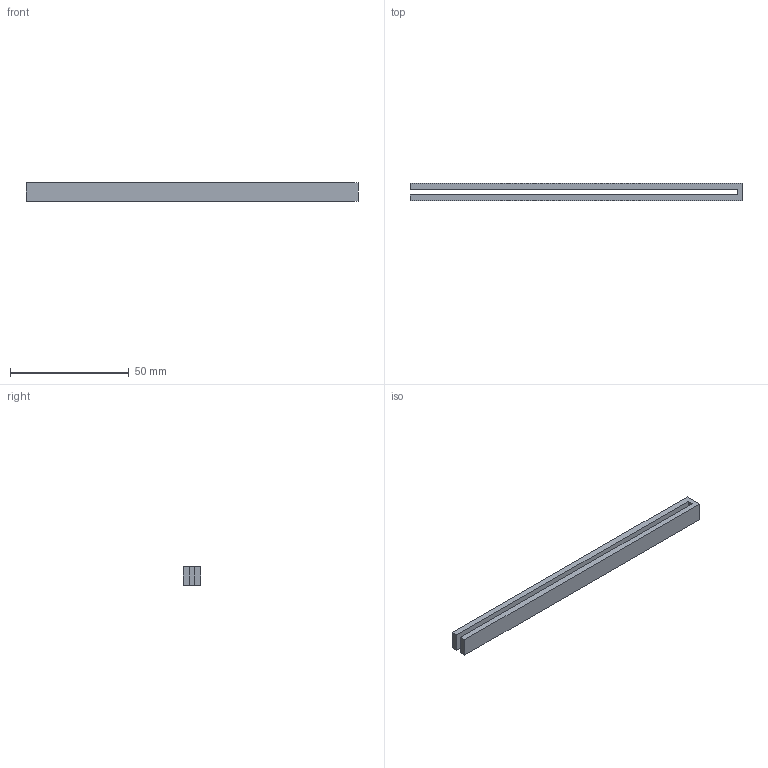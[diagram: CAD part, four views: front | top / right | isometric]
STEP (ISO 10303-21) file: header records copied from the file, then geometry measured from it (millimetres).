
FILE_DESCRIPTION(('FreeCAD Model'),'2;1');
FILE_NAME('Open CASCADE Shape Model','2023-12-15T11:33:14',('Author'),( ''),'Open CASCADE STEP processor 7.5','FreeCAD','Unknown');
FILE_SCHEMA(('AUTOMOTIVE_DESIGN { 1 0 10303 214 1 1 1 1 }'));
Length unit declared in the file: millimetre
Products named in the file (1): Pocket
Bounding box: 140 x 7.45 x 8 mm (x, y, z)
Volume: 5749.6 mm3; surface area: 6004.6 mm2
Topology: 1 solids, 1 shells, 10 faces, 24 edges, 16 vertices
Faces by surface type: plane 10
Entity records: 616 total; most frequent: CARTESIAN_POINT 105, DIRECTION 88, LINE 66, VECTOR 66, ORIENTED_EDGE 48, PCURVE 48, DEFINITIONAL_REPRESENTATION 48, EDGE_CURVE 24
